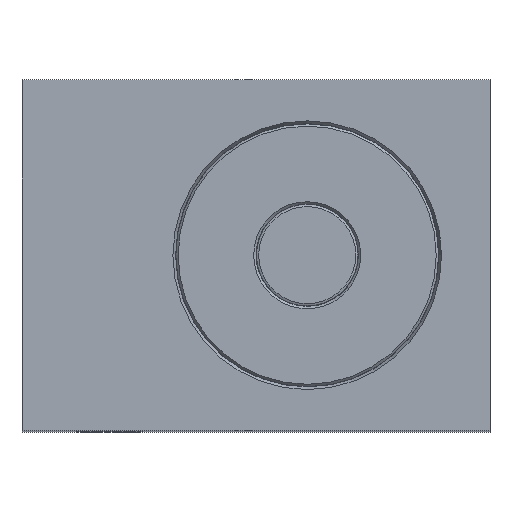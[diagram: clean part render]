
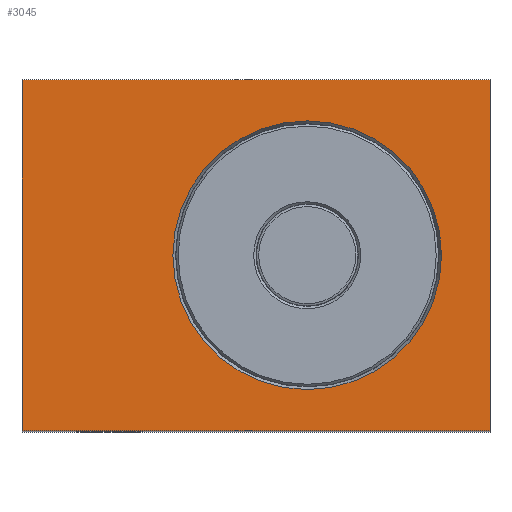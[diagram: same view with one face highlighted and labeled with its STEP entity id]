
A CAD part, top view. The second image highlights one B-rep face of the part: STEP entity #3045.
In plain terms, the highlighted planar face has unit normal (0, 0, 1).
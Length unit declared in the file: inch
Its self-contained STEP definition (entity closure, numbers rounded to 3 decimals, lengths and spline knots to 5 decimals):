
#140=CIRCLE('',#3258,0.57405);
#255=FACE_BOUND('',#774,.T.);
#554=FACE_OUTER_BOUND('',#773,.T.);
#773=EDGE_LOOP('',(#2492,#2493,#2494,#2495));
#774=EDGE_LOOP('',(#2496));
#1071=LINE('',#5061,#1271);
#1120=LINE('',#5430,#1320);
#1121=LINE('',#5431,#1321);
#1122=LINE('',#5432,#1322);
#1271=VECTOR('',#3660,1.5);
#1320=VECTOR('',#3871,1.5);
#1321=VECTOR('',#3872,2.);
#1322=VECTOR('',#3873,2.);
#1457=VERTEX_POINT('',#5059);
#1458=VERTEX_POINT('',#5060);
#1527=VERTEX_POINT('',#5422);
#1529=VERTEX_POINT('',#5428);
#1530=VERTEX_POINT('',#5429);
#1795=EDGE_CURVE('',#1457,#1458,#1071,.T.);
#1882=EDGE_CURVE('',#1527,#1527,#140,.T.);
#1884=EDGE_CURVE('',#1529,#1530,#1120,.T.);
#1885=EDGE_CURVE('',#1458,#1529,#1121,.T.);
#1886=EDGE_CURVE('',#1530,#1457,#1122,.T.);
#2492=ORIENTED_EDGE('',*,*,#1884,.F.);
#2493=ORIENTED_EDGE('',*,*,#1885,.F.);
#2494=ORIENTED_EDGE('',*,*,#1795,.F.);
#2495=ORIENTED_EDGE('',*,*,#1886,.F.);
#2496=ORIENTED_EDGE('',*,*,#1882,.F.);
#2747=PLANE('',#3261);
#3045=ADVANCED_FACE('',(#554,#255),#2747,.T.);
#3258=AXIS2_PLACEMENT_3D('',#5423,#3863,#3864);
#3261=AXIS2_PLACEMENT_3D('',#5427,#3869,#3870);
#3660=DIRECTION('',(0.,1.,0.));
#3863=DIRECTION('center_axis',(0.,0.,1.));
#3864=DIRECTION('ref_axis',(-1.,0.,0.));
#3869=DIRECTION('center_axis',(0.,0.,1.));
#3870=DIRECTION('ref_axis',(1.,0.,0.));
#3871=DIRECTION('',(0.,-1.,0.));
#3872=DIRECTION('',(1.,0.,0.));
#3873=DIRECTION('',(-1.,0.,0.));
#5059=CARTESIAN_POINT('',(-1.21875,-0.75,3.828));
#5060=CARTESIAN_POINT('',(-1.21875,0.75,3.828));
#5061=CARTESIAN_POINT('',(-1.21875,-0.75,3.828));
#5422=CARTESIAN_POINT('',(0.57405,0.,3.828));
#5423=CARTESIAN_POINT('Origin',(0.,0.,3.828));
#5427=CARTESIAN_POINT('Origin',(-0.21875,0.,3.828));
#5428=CARTESIAN_POINT('',(0.78125,0.75,3.828));
#5429=CARTESIAN_POINT('',(0.78125,-0.75,3.828));
#5430=CARTESIAN_POINT('',(0.78125,0.75,3.828));
#5431=CARTESIAN_POINT('',(-1.21875,0.75,3.828));
#5432=CARTESIAN_POINT('',(0.78125,-0.75,3.828));
